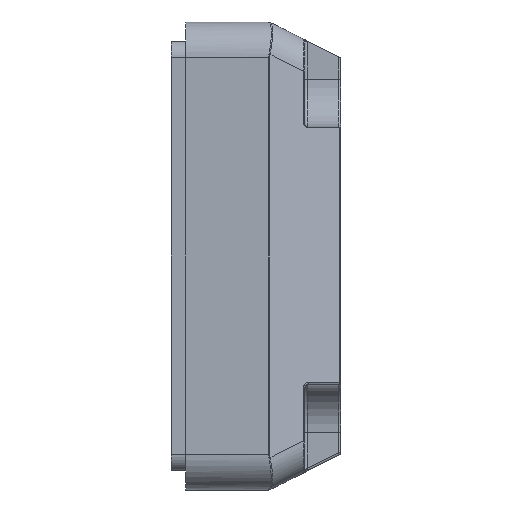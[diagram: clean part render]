
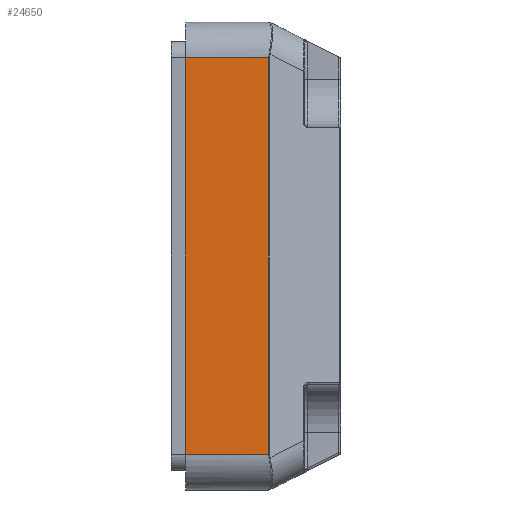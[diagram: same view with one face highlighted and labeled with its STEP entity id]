
A CAD part, front view. The second image highlights one B-rep face of the part: STEP entity #24650.
In plain terms, the highlighted planar face has unit normal (0, -1, 0).
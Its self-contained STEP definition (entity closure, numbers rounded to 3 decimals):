
#23168 = PLANE('',#23169);
#23169 = AXIS2_PLACEMENT_3D('',#23170,#23171,#23172);
#23170 = CARTESIAN_POINT('',(79.5,18.,244.5));
#23171 = DIRECTION('',(-1.,0.,0.));
#23172 = DIRECTION('',(0.,1.,0.));
#23214 = VERTEX_POINT('',#23215);
#23215 = CARTESIAN_POINT('',(79.5,-2.3,236.2));
#23234 = CYLINDRICAL_SURFACE('',#23235,1.5);
#23235 = AXIS2_PLACEMENT_3D('',#23236,#23237,#23238);
#23236 = CARTESIAN_POINT('',(69.644,-0.8,236.2));
#23237 = DIRECTION('',(1.,0.,0.));
#23238 = DIRECTION('',(0.,-1.,0.));
#23246 = EDGE_CURVE('',#23247,#23214,#23249,.T.);
#23247 = VERTEX_POINT('',#23248);
#23248 = CARTESIAN_POINT('',(79.5,-2.3,252.8));
#23249 = SURFACE_CURVE('',#23250,(#23254,#23261),.PCURVE_S1.);
#23250 = LINE('',#23251,#23252);
#23251 = CARTESIAN_POINT('',(79.5,-2.3,244.5));
#23252 = VECTOR('',#23253,1.);
#23253 = DIRECTION('',(0.,0.,-1.));
#23254 = PCURVE('',#23168,#23255);
#23255 = DEFINITIONAL_REPRESENTATION('',(#23256),#23260);
#23256 = LINE('',#23257,#23258);
#23257 = CARTESIAN_POINT('',(-20.3,0.));
#23258 = VECTOR('',#23259,1.);
#23259 = DIRECTION('',(0.,1.));
#23260 = ( GEOMETRIC_REPRESENTATION_CONTEXT(2) 
PARAMETRIC_REPRESENTATION_CONTEXT() REPRESENTATION_CONTEXT('2D SPACE',''
  ) );
#23261 = PCURVE('',#23262,#23267);
#23262 = PLANE('',#23263);
#23263 = AXIS2_PLACEMENT_3D('',#23264,#23265,#23266);
#23264 = CARTESIAN_POINT('',(86.,-2.3,234.7));
#23265 = DIRECTION('',(0.,-1.,0.));
#23266 = DIRECTION('',(0.,0.,1.));
#23267 = DEFINITIONAL_REPRESENTATION('',(#23268),#23272);
#23268 = LINE('',#23269,#23270);
#23269 = CARTESIAN_POINT('',(9.8,6.5));
#23270 = VECTOR('',#23271,1.);
#23271 = DIRECTION('',(-1.,0.));
#23272 = ( GEOMETRIC_REPRESENTATION_CONTEXT(2) 
PARAMETRIC_REPRESENTATION_CONTEXT() REPRESENTATION_CONTEXT('2D SPACE',''
  ) );
#23295 = CYLINDRICAL_SURFACE('',#23296,1.5);
#23296 = AXIS2_PLACEMENT_3D('',#23297,#23298,#23299);
#23297 = CARTESIAN_POINT('',(69.644,-0.8,252.8));
#23298 = DIRECTION('',(1.,0.,0.));
#23299 = DIRECTION('',(0.,0.,1.));
#24297 = VERTEX_POINT('',#24298);
#24298 = CARTESIAN_POINT('',(82.976,-2.3,236.2));
#24323 = EDGE_CURVE('',#24297,#23214,#24324,.T.);
#24324 = SURFACE_CURVE('',#24325,(#24329,#24336),.PCURVE_S1.);
#24325 = LINE('',#24326,#24327);
#24326 = CARTESIAN_POINT('',(86.,-2.3,236.2));
#24327 = VECTOR('',#24328,1.);
#24328 = DIRECTION('',(-1.,0.,0.));
#24329 = PCURVE('',#23234,#24330);
#24330 = DEFINITIONAL_REPRESENTATION('',(#24331),#24335);
#24331 = LINE('',#24332,#24333);
#24332 = CARTESIAN_POINT('',(0.,16.356));
#24333 = VECTOR('',#24334,1.);
#24334 = DIRECTION('',(0.,-1.));
#24335 = ( GEOMETRIC_REPRESENTATION_CONTEXT(2) 
PARAMETRIC_REPRESENTATION_CONTEXT() REPRESENTATION_CONTEXT('2D SPACE',''
  ) );
#24336 = PCURVE('',#23262,#24337);
#24337 = DEFINITIONAL_REPRESENTATION('',(#24338),#24342);
#24338 = LINE('',#24339,#24340);
#24339 = CARTESIAN_POINT('',(1.5,0.));
#24340 = VECTOR('',#24341,1.);
#24341 = DIRECTION('',(0.,1.));
#24342 = ( GEOMETRIC_REPRESENTATION_CONTEXT(2) 
PARAMETRIC_REPRESENTATION_CONTEXT() REPRESENTATION_CONTEXT('2D SPACE',''
  ) );
#24563 = CYLINDRICAL_SURFACE('',#24564,0.1);
#24564 = AXIS2_PLACEMENT_3D('',#24565,#24566,#24567);
#24565 = CARTESIAN_POINT('',(82.976,-2.2,236.12));
#24566 = DIRECTION('',(0.,0.,1.));
#24567 = DIRECTION('',(0.,-1.,0.));
#24604 = VERTEX_POINT('',#24605);
#24605 = CARTESIAN_POINT('',(82.976,-2.3,252.8));
#24630 = EDGE_CURVE('',#24297,#24604,#24631,.T.);
#24631 = SURFACE_CURVE('',#24632,(#24636,#24643),.PCURVE_S1.);
#24632 = LINE('',#24633,#24634);
#24633 = CARTESIAN_POINT('',(82.976,-2.3,234.7));
#24634 = VECTOR('',#24635,1.);
#24635 = DIRECTION('',(0.,0.,1.));
#24636 = PCURVE('',#24563,#24637);
#24637 = DEFINITIONAL_REPRESENTATION('',(#24638),#24642);
#24638 = LINE('',#24639,#24640);
#24639 = CARTESIAN_POINT('',(0.,-1.42));
#24640 = VECTOR('',#24641,1.);
#24641 = DIRECTION('',(0.,1.));
#24642 = ( GEOMETRIC_REPRESENTATION_CONTEXT(2) 
PARAMETRIC_REPRESENTATION_CONTEXT() REPRESENTATION_CONTEXT('2D SPACE',''
  ) );
#24643 = PCURVE('',#23262,#24644);
#24644 = DEFINITIONAL_REPRESENTATION('',(#24645),#24649);
#24645 = LINE('',#24646,#24647);
#24646 = CARTESIAN_POINT('',(0.,3.024));
#24647 = VECTOR('',#24648,1.);
#24648 = DIRECTION('',(1.,0.));
#24649 = ( GEOMETRIC_REPRESENTATION_CONTEXT(2) 
PARAMETRIC_REPRESENTATION_CONTEXT() REPRESENTATION_CONTEXT('2D SPACE',''
  ) );
#24650 = ADVANCED_FACE('',(#24651),#23262,.T.);
#24651 = FACE_BOUND('',#24652,.T.);
#24652 = EDGE_LOOP('',(#24653,#24674,#24675,#24676));
#24653 = ORIENTED_EDGE('',*,*,#24654,.F.);
#24654 = EDGE_CURVE('',#23247,#24604,#24655,.T.);
#24655 = SURFACE_CURVE('',#24656,(#24660,#24667),.PCURVE_S1.);
#24656 = LINE('',#24657,#24658);
#24657 = CARTESIAN_POINT('',(69.644,-2.3,252.8));
#24658 = VECTOR('',#24659,1.);
#24659 = DIRECTION('',(1.,0.,0.));
#24660 = PCURVE('',#23262,#24661);
#24661 = DEFINITIONAL_REPRESENTATION('',(#24662),#24666);
#24662 = LINE('',#24663,#24664);
#24663 = CARTESIAN_POINT('',(18.1,16.356));
#24664 = VECTOR('',#24665,1.);
#24665 = DIRECTION('',(0.,-1.));
#24666 = ( GEOMETRIC_REPRESENTATION_CONTEXT(2) 
PARAMETRIC_REPRESENTATION_CONTEXT() REPRESENTATION_CONTEXT('2D SPACE',''
  ) );
#24667 = PCURVE('',#23295,#24668);
#24668 = DEFINITIONAL_REPRESENTATION('',(#24669),#24673);
#24669 = LINE('',#24670,#24671);
#24670 = CARTESIAN_POINT('',(1.571,0.));
#24671 = VECTOR('',#24672,1.);
#24672 = DIRECTION('',(0.,1.));
#24673 = ( GEOMETRIC_REPRESENTATION_CONTEXT(2) 
PARAMETRIC_REPRESENTATION_CONTEXT() REPRESENTATION_CONTEXT('2D SPACE',''
  ) );
#24674 = ORIENTED_EDGE('',*,*,#23246,.T.);
#24675 = ORIENTED_EDGE('',*,*,#24323,.F.);
#24676 = ORIENTED_EDGE('',*,*,#24630,.T.);
